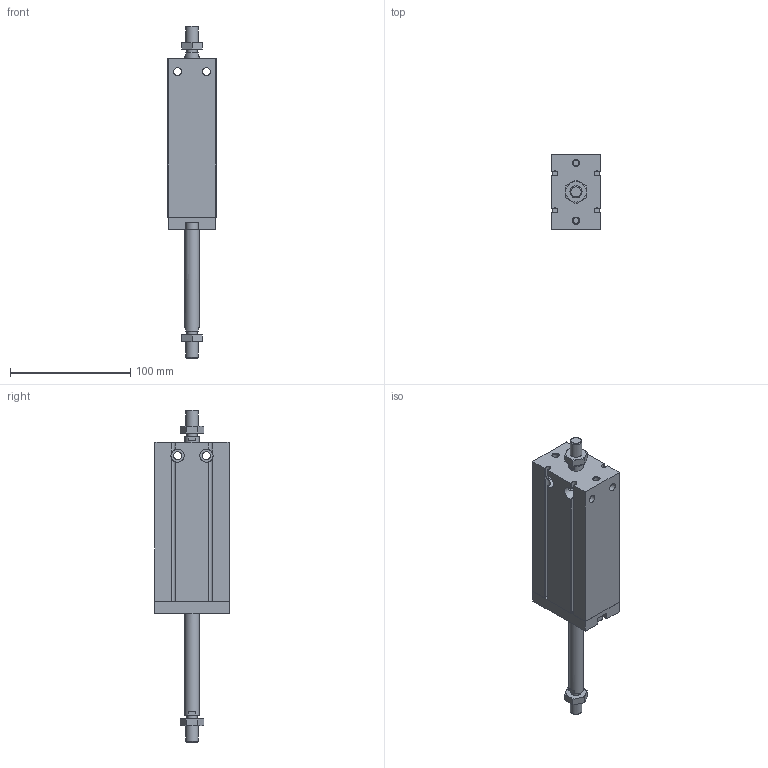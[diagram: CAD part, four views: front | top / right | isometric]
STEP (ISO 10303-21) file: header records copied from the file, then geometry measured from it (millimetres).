
FILE_DESCRIPTION( ( 'STEP AP214' ), '1' );
FILE_NAME( 'C:/Users/EMC02301/Desktop/EU图纸/EUD32X80-0-S.stp', '2026-08-12T01:08:30', ( 'License CC BY-ND 4.0' ), ( 'CADENAS' ), ' ', 'PARTsolutions', ' ' );
FILE_SCHEMA( ( 'AUTOMOTIVE_DESIGN { 1 0 10303 214 1 1 1 1 }' ) );
Length unit declared in the file: millimetre
Products named in the file (5): EUD32X80-0-S()(0); _EUD32X80-0-S()(0-dummy); _EUD32X80--S()(-body); _EUD32X80--S(0-rod); _EU_BOARD_32
Assembly tree (4 placements, depth 2):
  EUD32X80-0-S()(0)
    _EUD32X80-0-S()(0-dummy)
    _EUD32X80--S()(-body)
    _EUD32X80--S(0-rod)
    _EU_BOARD_32
Bounding box: 40 x 62 x 276 mm (x, y, z)
Volume: 294460 mm3; surface area: 74364.1 mm2
Topology: 3 solids, 3 shells, 219 faces, 537 edges, 347 vertices
Faces by surface type: plane 98, cylinder 83, cone 36, torus 2
Full cylindrical faces by diameter (mm): 4.917 x4, 6 x2, 6.6 x8, 8.466 x2, 9.728 x2, 10 x4, 11 x4, 12 x5, 32 x2
Entity records: 9004 total; most frequent: CARTESIAN_POINT 2261, DIRECTION 980, ORIENTED_EDGE 972, EDGE_CURVE 486, AXIS2_PLACEMENT_3D 382, VERTEX_POINT 338, EDGE_LOOP 304, FACE_OUTER_BOUND 254
